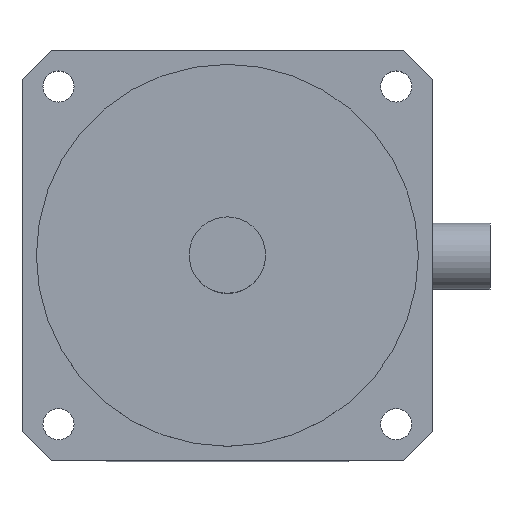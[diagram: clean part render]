
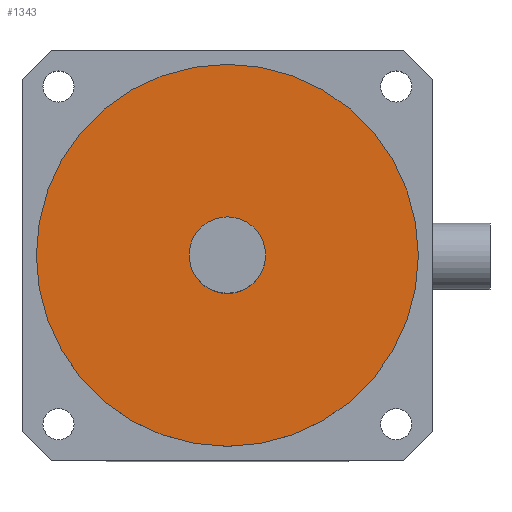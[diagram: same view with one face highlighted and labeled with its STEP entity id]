
A CAD part, top view. The second image highlights one B-rep face of the part: STEP entity #1343.
In plain terms, the highlighted planar face has unit normal (0, 0, 1).
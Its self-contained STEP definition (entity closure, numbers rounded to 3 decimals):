
#19 = CARTESIAN_POINT ( 'NONE',  ( 8., 0., 200. ) ) ;
#46 = PLANE ( 'NONE',  #995 ) ;
#129 = VERTEX_POINT ( 'NONE', #19 ) ;
#161 = CIRCLE ( 'NONE', #624, 40. ) ;
#162 = EDGE_LOOP ( 'NONE', ( #1574, #1102 ) ) ;
#182 = AXIS2_PLACEMENT_3D ( 'NONE', #799, #1736, #639 ) ;
#186 = CARTESIAN_POINT ( 'NONE',  ( 0., 0., 200. ) ) ;
#192 = CARTESIAN_POINT ( 'NONE',  ( 0., 0., 200. ) ) ;
#205 = DIRECTION ( 'NONE',  ( 0., 0., 1. ) ) ;
#382 = EDGE_CURVE ( 'NONE', #1278, #1886, #161, .T. ) ;
#398 = CARTESIAN_POINT ( 'NONE',  ( -8., 0., 200. ) ) ;
#407 = DIRECTION ( 'NONE',  ( 0., 0., 1. ) ) ;
#614 = CIRCLE ( 'NONE', #802, 8. ) ;
#624 = AXIS2_PLACEMENT_3D ( 'NONE', #836, #1765, #1234 ) ;
#639 = DIRECTION ( 'NONE',  ( 1., 0., 0. ) ) ;
#799 = CARTESIAN_POINT ( 'NONE',  ( 0., 0., 200. ) ) ;
#802 = AXIS2_PLACEMENT_3D ( 'NONE', #186, #1271, #964 ) ;
#834 = CIRCLE ( 'NONE', #1012, 8. ) ;
#836 = CARTESIAN_POINT ( 'NONE',  ( 0., 0., 200. ) ) ;
#908 = EDGE_CURVE ( 'NONE', #1886, #1278, #1585, .T. ) ;
#964 = DIRECTION ( 'NONE',  ( 1., 0., 0. ) ) ;
#995 = AXIS2_PLACEMENT_3D ( 'NONE', #192, #205, #1290 ) ;
#1012 = AXIS2_PLACEMENT_3D ( 'NONE', #1336, #407, #1330 ) ;
#1102 = ORIENTED_EDGE ( 'NONE', *, *, #382, .T. ) ;
#1129 = ORIENTED_EDGE ( 'NONE', *, *, #1334, .F. ) ;
#1234 = DIRECTION ( 'NONE',  ( 1., 0., 0. ) ) ;
#1269 = FACE_OUTER_BOUND ( 'NONE', #162, .T. ) ;
#1271 = DIRECTION ( 'NONE',  ( 0., 0., 1. ) ) ;
#1278 = VERTEX_POINT ( 'NONE', #1917 ) ;
#1290 = DIRECTION ( 'NONE',  ( 1., 0., 0. ) ) ;
#1330 = DIRECTION ( 'NONE',  ( 1., 0., 0. ) ) ;
#1334 = EDGE_CURVE ( 'NONE', #129, #1856, #614, .T. ) ;
#1336 = CARTESIAN_POINT ( 'NONE',  ( 0., 0., 200. ) ) ;
#1341 = ORIENTED_EDGE ( 'NONE', *, *, #1613, .F. ) ;
#1343 = ADVANCED_FACE ( 'NONE', ( #1269, #1647 ), #46, .T. ) ;
#1574 = ORIENTED_EDGE ( 'NONE', *, *, #908, .T. ) ;
#1585 = CIRCLE ( 'NONE', #182, 40. ) ;
#1613 = EDGE_CURVE ( 'NONE', #1856, #129, #834, .T. ) ;
#1647 = FACE_BOUND ( 'NONE', #1741, .T. ) ;
#1736 = DIRECTION ( 'NONE',  ( 0., 0., 1. ) ) ;
#1741 = EDGE_LOOP ( 'NONE', ( #1341, #1129 ) ) ;
#1765 = DIRECTION ( 'NONE',  ( 0., 0., 1. ) ) ;
#1811 = CARTESIAN_POINT ( 'NONE',  ( -40., 0., 200. ) ) ;
#1856 = VERTEX_POINT ( 'NONE', #398 ) ;
#1886 = VERTEX_POINT ( 'NONE', #1811 ) ;
#1917 = CARTESIAN_POINT ( 'NONE',  ( 40., 0., 200. ) ) ;
